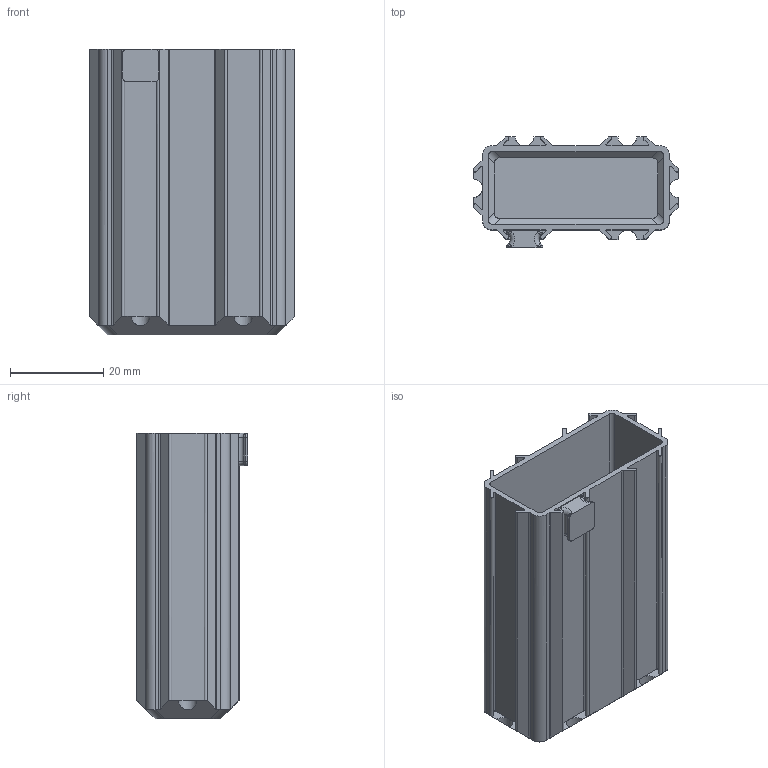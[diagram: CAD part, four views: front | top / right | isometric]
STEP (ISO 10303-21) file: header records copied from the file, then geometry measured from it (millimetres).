
FILE_DESCRIPTION(/* description */ (''),/* implementation_level */ '2;1');
FILE_NAME(/* name */ 'BOX_x02_y01_z060_tx0_ty0.stp',/* time_stamp */ '2024-02-16T08:37:21+01:00',/* author */ ('ott'),/* organization */ (''),/* preprocessor_version */ 'ST-DEVELOPER v19.2',/* originating_system */ 'Autodesk Inventor 2023',/* authorisation */ '');
FILE_SCHEMA (('AUTOMOTIVE_DESIGN { 1 0 10303 214 3 1 1 }'));
Length unit declared in the file: millimetre
Products named in the file (1): BOX_x02_y01_z060_tx0_ty0
Bounding box: 44 x 23.8 x 61.2 mm (x, y, z)
Volume: 10278.7 mm3; surface area: 17592.2 mm2
Topology: 2 solids, 2 shells, 151 faces, 418 edges, 272 vertices
Faces by surface type: plane 79, cylinder 68, torus 4
Entity records: 5124 total; most frequent: CARTESIAN_POINT 934, DIRECTION 868, ORIENTED_EDGE 836, EDGE_CURVE 418, AXIS2_PLACEMENT_3D 306, VERTEX_POINT 272, LINE 256, VECTOR 256
